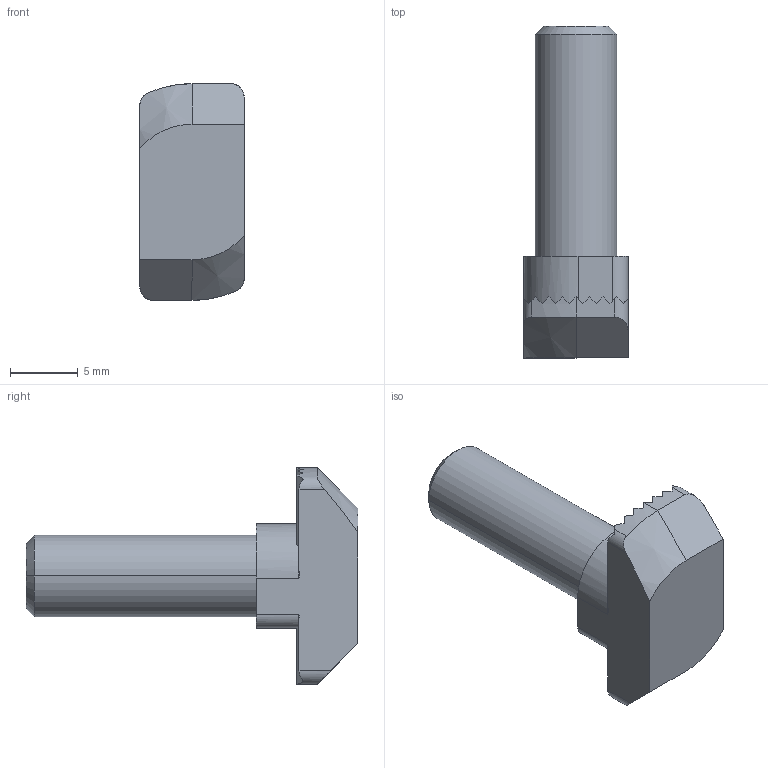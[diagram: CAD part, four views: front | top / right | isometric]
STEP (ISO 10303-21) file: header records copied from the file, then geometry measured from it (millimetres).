
FILE_DESCRIPTION (( 'STEP AP214' ), '1' );
FILE_NAME ('Transept Giltec-VTM8M6X20.STEP', '2012-10-03T05:38:07', ( 'sysAdmin' ), ( 'SolidWorks' ), 'SwSTEP 2.0', 'SolidWorks 2012', '' );
FILE_SCHEMA (( 'AUTOMOTIVE_DESIGN' ));
Length unit declared in the file: millimetre
Products named in the file (1): Transept Giltec-VTM8M6X20
Bounding box: 7.7 x 24.5 x 16 mm (x, y, z)
Surface area: 815.9 mm2 (no closed solid volume)
Topology: 0 solids, 1 shells, 59 faces, 162 edges, 106 vertices
Faces by surface type: plane 43, cylinder 12, cone 4
Entity records: 2540 total; most frequent: CARTESIAN_POINT 512, ORIENTED_EDGE 324, DIRECTION 240, EDGE_CURVE 162, VERTEX_POINT 106, LINE 92, VECTOR 92, AXIS2_PLACEMENT_3D 74
